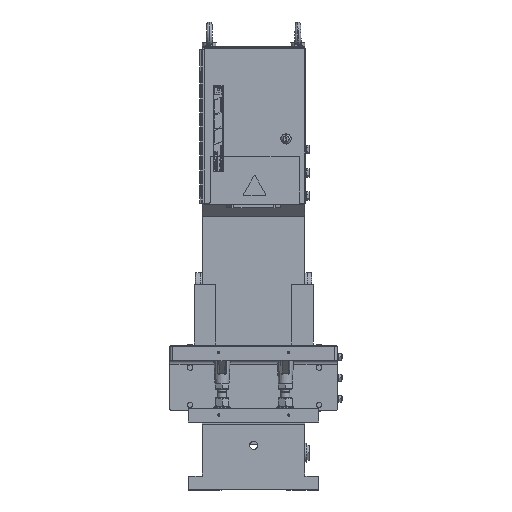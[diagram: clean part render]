
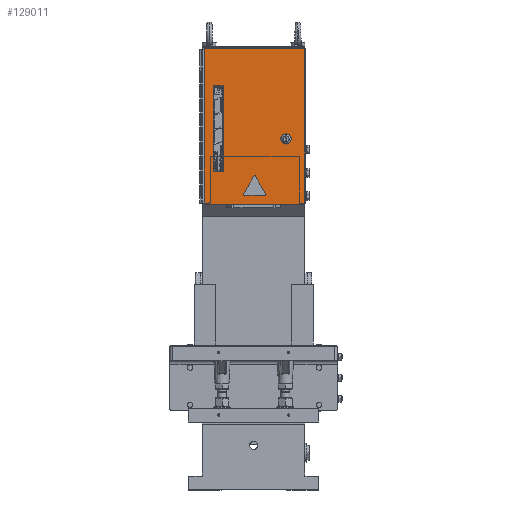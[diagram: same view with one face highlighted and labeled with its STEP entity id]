
A CAD part, front view. The second image highlights one B-rep face of the part: STEP entity #129011.
In plain terms, the highlighted planar face has unit normal (0, -1, 0).
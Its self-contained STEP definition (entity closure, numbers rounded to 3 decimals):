
#9008=LINE('',#162181,#19980);
#9011=LINE('',#162186,#19983);
#9989=LINE('',#167328,#20961);
#9990=LINE('',#167330,#20962);
#9993=LINE('',#167343,#20965);
#9997=LINE('',#167355,#20969);
#10002=LINE('',#167367,#20974);
#18082=LINE('',#221828,#29054);
#18084=LINE('',#221834,#29056);
#18085=LINE('',#221838,#29057);
#18086=LINE('',#221842,#29058);
#19980=VECTOR('',#137608,10.);
#19983=VECTOR('',#137613,10.);
#20961=VECTOR('',#139213,10.);
#20962=VECTOR('',#139216,10.);
#20965=VECTOR('',#139229,10.);
#20969=VECTOR('',#139241,10.);
#20974=VECTOR('',#139254,10.);
#29054=VECTOR('',#153022,10.);
#29056=VECTOR('',#153028,10.);
#29057=VECTOR('',#153031,10.);
#29058=VECTOR('',#153034,10.);
#31328=FACE_BOUND('',#44389,.T.);
#31329=FACE_BOUND('',#44390,.T.);
#31330=FACE_BOUND('',#44391,.T.);
#37117=FACE_OUTER_BOUND('',#44388,.T.);
#44388=EDGE_LOOP('',(#107550,#107551,#107552,#107553,#107554,#107555,#107556,
#107557));
#44389=EDGE_LOOP('',(#107558,#107559,#107560,#107561));
#44390=EDGE_LOOP('',(#107562,#107563,#107564,#107565,#107566,#107567));
#44391=EDGE_LOOP('',(#107568));
#45839=CIRCLE('',#131190,1.);
#45841=CIRCLE('',#131194,1.);
#45843=CIRCLE('',#131198,1.);
#46170=CIRCLE('',#134045,3.);
#46171=CIRCLE('',#134046,3.);
#46172=CIRCLE('',#134047,3.);
#46173=CIRCLE('',#134048,3.);
#46174=CIRCLE('',#134049,11.);
#47871=VERTEX_POINT('',#162178);
#47872=VERTEX_POINT('',#162180);
#47873=VERTEX_POINT('',#162184);
#48776=VERTEX_POINT('',#167326);
#48779=VERTEX_POINT('',#167336);
#48780=VERTEX_POINT('',#167338);
#48781=VERTEX_POINT('',#167342);
#48784=VERTEX_POINT('',#167350);
#48785=VERTEX_POINT('',#167354);
#48788=VERTEX_POINT('',#167362);
#57397=VERTEX_POINT('',#221825);
#57398=VERTEX_POINT('',#221827);
#57399=VERTEX_POINT('',#221831);
#57400=VERTEX_POINT('',#221833);
#57401=VERTEX_POINT('',#221835);
#57402=VERTEX_POINT('',#221837);
#57403=VERTEX_POINT('',#221839);
#57404=VERTEX_POINT('',#221841);
#57405=VERTEX_POINT('',#221844);
#60186=EDGE_CURVE('',#47872,#47871,#9008,.T.);
#60189=EDGE_CURVE('',#47871,#47873,#9011,.T.);
#61546=EDGE_CURVE('',#47873,#48776,#9989,.T.);
#61547=EDGE_CURVE('',#48776,#47872,#9990,.T.);
#61550=EDGE_CURVE('',#48780,#48779,#45839,.T.);
#61552=EDGE_CURVE('',#48781,#48780,#9993,.T.);
#61556=EDGE_CURVE('',#48784,#48781,#45841,.T.);
#61558=EDGE_CURVE('',#48785,#48784,#9997,.T.);
#61562=EDGE_CURVE('',#48788,#48785,#45843,.T.);
#61565=EDGE_CURVE('',#48779,#48788,#10002,.T.);
#74485=EDGE_CURVE('',#57397,#57398,#18082,.T.);
#74487=EDGE_CURVE('',#57399,#57397,#46170,.T.);
#74488=EDGE_CURVE('',#57400,#57399,#18084,.T.);
#74489=EDGE_CURVE('',#57401,#57400,#46171,.T.);
#74490=EDGE_CURVE('',#57402,#57401,#18085,.T.);
#74491=EDGE_CURVE('',#57403,#57402,#46172,.T.);
#74492=EDGE_CURVE('',#57404,#57403,#18086,.T.);
#74493=EDGE_CURVE('',#57398,#57404,#46173,.T.);
#74494=EDGE_CURVE('',#57405,#57405,#46174,.T.);
#107550=ORIENTED_EDGE('',*,*,#74487,.F.);
#107551=ORIENTED_EDGE('',*,*,#74488,.F.);
#107552=ORIENTED_EDGE('',*,*,#74489,.F.);
#107553=ORIENTED_EDGE('',*,*,#74490,.F.);
#107554=ORIENTED_EDGE('',*,*,#74491,.F.);
#107555=ORIENTED_EDGE('',*,*,#74492,.F.);
#107556=ORIENTED_EDGE('',*,*,#74493,.F.);
#107557=ORIENTED_EDGE('',*,*,#74485,.F.);
#107558=ORIENTED_EDGE('',*,*,#60186,.T.);
#107559=ORIENTED_EDGE('',*,*,#60189,.T.);
#107560=ORIENTED_EDGE('',*,*,#61546,.T.);
#107561=ORIENTED_EDGE('',*,*,#61547,.T.);
#107562=ORIENTED_EDGE('',*,*,#61550,.T.);
#107563=ORIENTED_EDGE('',*,*,#61565,.T.);
#107564=ORIENTED_EDGE('',*,*,#61562,.T.);
#107565=ORIENTED_EDGE('',*,*,#61558,.T.);
#107566=ORIENTED_EDGE('',*,*,#61556,.T.);
#107567=ORIENTED_EDGE('',*,*,#61552,.T.);
#107568=ORIENTED_EDGE('',*,*,#74494,.T.);
#116148=PLANE('',#134044);
#129011=ADVANCED_FACE('',(#37117,#31328,#31329,#31330),#116148,.T.);
#131190=AXIS2_PLACEMENT_3D('',#167339,#139224,#139225);
#131194=AXIS2_PLACEMENT_3D('',#167351,#139236,#139237);
#131198=AXIS2_PLACEMENT_3D('',#167363,#139248,#139249);
#134044=AXIS2_PLACEMENT_3D('',#221830,#153024,#153025);
#134045=AXIS2_PLACEMENT_3D('',#221832,#153026,#153027);
#134046=AXIS2_PLACEMENT_3D('',#221836,#153029,#153030);
#134047=AXIS2_PLACEMENT_3D('',#221840,#153032,#153033);
#134048=AXIS2_PLACEMENT_3D('',#221843,#153035,#153036);
#134049=AXIS2_PLACEMENT_3D('',#221845,#153037,#153038);
#137608=DIRECTION('',(0.,0.,1.));
#137613=DIRECTION('',(1.,0.,0.));
#139213=DIRECTION('',(0.,0.,-1.));
#139216=DIRECTION('',(-1.,0.,0.));
#139224=DIRECTION('center_axis',(0.,1.,0.));
#139225=DIRECTION('ref_axis',(-0.866,0.,
-0.5));
#139229=DIRECTION('',(-1.,0.,0.));
#139236=DIRECTION('center_axis',(0.,1.,0.));
#139237=DIRECTION('ref_axis',(0.866,0.,-0.5));
#139241=DIRECTION('',(0.5,0.,-0.866));
#139248=DIRECTION('center_axis',(0.,1.,0.));
#139249=DIRECTION('ref_axis',(0.,0.,
1.));
#139254=DIRECTION('',(0.5,0.,0.866));
#153022=DIRECTION('',(1.,0.,0.));
#153024=DIRECTION('center_axis',(0.,-1.,0.));
#153025=DIRECTION('ref_axis',(1.,0.,0.));
#153026=DIRECTION('center_axis',(0.,1.,0.));
#153027=DIRECTION('ref_axis',(-0.707,0.,0.707));
#153028=DIRECTION('',(0.,0.,1.));
#153029=DIRECTION('center_axis',(0.,1.,0.));
#153030=DIRECTION('ref_axis',(-0.707,0.,
-0.707));
#153031=DIRECTION('',(-1.,0.,0.));
#153032=DIRECTION('center_axis',(0.,1.,0.));
#153033=DIRECTION('ref_axis',(0.707,0.,-0.707));
#153034=DIRECTION('',(0.,0.,-1.));
#153035=DIRECTION('center_axis',(0.,1.,0.));
#153036=DIRECTION('ref_axis',(0.707,0.,0.707));
#153037=DIRECTION('center_axis',(0.,1.,0.));
#153038=DIRECTION('ref_axis',(-1.,0.,0.));
#162178=CARTESIAN_POINT('',(-86.5,-549.5,868.));
#162180=CARTESIAN_POINT('',(-86.5,-549.5,683.));
#162181=CARTESIAN_POINT('',(-86.5,-549.5,732.));
#162184=CARTESIAN_POINT('',(-65.5,-549.5,868.));
#162186=CARTESIAN_POINT('',(-42.25,-549.5,868.));
#167326=CARTESIAN_POINT('',(-65.5,-549.5,683.));
#167328=CARTESIAN_POINT('',(-65.5,-549.5,824.5));
#167330=CARTESIAN_POINT('',(-31.75,-549.5,683.));
#167336=CARTESIAN_POINT('',(-22.134,-549.5,634.5));
#167338=CARTESIAN_POINT('',(-21.268,-549.5,633.));
#167339=CARTESIAN_POINT('Origin',(-21.268,-549.5,634.));
#167342=CARTESIAN_POINT('',(25.268,-549.5,633.));
#167343=CARTESIAN_POINT('',(-10.5,-549.5,633.));
#167350=CARTESIAN_POINT('',(26.134,-549.5,634.5));
#167351=CARTESIAN_POINT('Origin',(25.268,-549.5,634.));
#167354=CARTESIAN_POINT('',(2.866,-549.5,674.801));
#167355=CARTESIAN_POINT('',(-8.168,-549.5,693.913));
#167362=CARTESIAN_POINT('',(1.134,-549.5,674.801));
#167363=CARTESIAN_POINT('Origin',(2.,-549.5,674.301));
#167367=CARTESIAN_POINT('',(24.668,-549.5,715.563));
#221825=CARTESIAN_POINT('',(-103.5,-549.5,949.));
#221827=CARTESIAN_POINT('',(107.5,-549.5,949.));
#221828=CARTESIAN_POINT('',(110.5,-549.5,949.));
#221830=CARTESIAN_POINT('Origin',(2.,-549.5,781.));
#221831=CARTESIAN_POINT('',(-106.5,-549.5,946.));
#221832=CARTESIAN_POINT('Origin',(-103.5,-549.5,946.));
#221833=CARTESIAN_POINT('',(-106.5,-549.5,616.));
#221834=CARTESIAN_POINT('',(-106.5,-549.5,949.));
#221835=CARTESIAN_POINT('',(-103.5,-549.5,613.));
#221836=CARTESIAN_POINT('Origin',(-103.5,-549.5,616.));
#221837=CARTESIAN_POINT('',(107.5,-549.5,613.));
#221838=CARTESIAN_POINT('',(-106.5,-549.5,613.));
#221839=CARTESIAN_POINT('',(110.5,-549.5,616.));
#221840=CARTESIAN_POINT('Origin',(107.5,-549.5,616.));
#221841=CARTESIAN_POINT('',(110.5,-549.5,946.));
#221842=CARTESIAN_POINT('',(110.5,-549.5,613.));
#221843=CARTESIAN_POINT('Origin',(107.5,-549.5,946.));
#221844=CARTESIAN_POINT('',(80.5,-549.5,754.));
#221845=CARTESIAN_POINT('Origin',(69.5,-549.5,754.));
